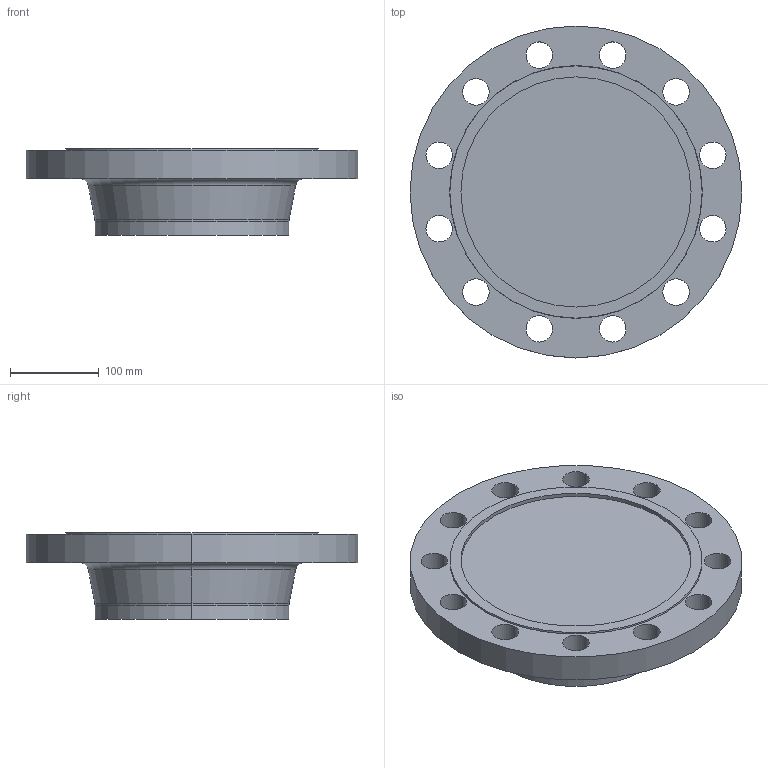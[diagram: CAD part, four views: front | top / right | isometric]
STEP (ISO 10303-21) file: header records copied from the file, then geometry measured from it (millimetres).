
FILE_DESCRIPTION (( 'STEP AP214' ), '1' );
FILE_NAME ('PN40 DN200 Type 21(ii) - Type F Face.STEP', '2019-01-05T01:59:39', ( '' ), ( '' ), 'SwSTEP 2.0', 'SolidWorks 2019', '' );
FILE_SCHEMA (( 'AUTOMOTIVE_DESIGN' ));
Length unit declared in the file: millimetre
Products named in the file (1): PN40 DN200 Type 21(ii) - Type F Face
Bounding box: 375 x 375 x 98 mm (x, y, z)
Volume: 5728420.5 mm3; surface area: 320465.7 mm2
Topology: 1 solids, 1 shells, 43 faces, 108 edges, 70 vertices
Faces by surface type: cylinder 30, plane 5, torus 4, cone 4
Entity records: 1410 total; most frequent: DIRECTION 270, CARTESIAN_POINT 222, ORIENTED_EDGE 216, AXIS2_PLACEMENT_3D 118, EDGE_CURVE 108, CIRCLE 74, EDGE_LOOP 70, VERTEX_POINT 70
